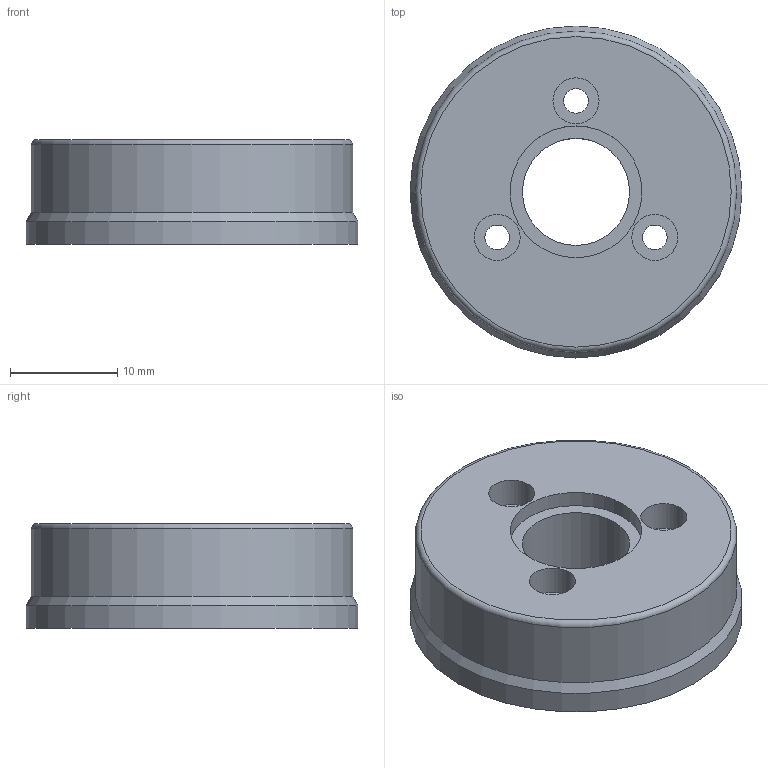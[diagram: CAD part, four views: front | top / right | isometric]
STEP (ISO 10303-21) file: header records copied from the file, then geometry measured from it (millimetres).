
FILE_DESCRIPTION(/* description */ (''),/* implementation_level */ '2;1');
FILE_NAME(/* name */ '32-3_flange_c.stp',/* time_stamp */ '2016-09-07T14:25:35+02:00',/* author */ ('DR. FRITZ FAULHABER GmbH & Co. KG'),/* organization */ ('DR. FRITZ FAULHABER GmbH & Co. KG'),/* preprocessor_version */ 'ST-DEVELOPER v16',/* originating_system */ 'SIEMENS PLM Software NX 10.0',/* authorisation */ '');
FILE_SCHEMA (('AUTOMOTIVE_DESIGN { 1 0 10303 214 3 1 1 1 }'));
Length unit declared in the file: millimetre
Products named in the file (1): F0201636014_B
Bounding box: 31 x 31 x 9.8 mm (x, y, z)
Volume: 6004.7 mm3; surface area: 2783.2 mm2
Topology: 1 solids, 1 shells, 19 faces, 44 edges, 36 vertices
Faces by surface type: cylinder 10, plane 6, cone 2, torus 1
Full cylindrical faces by diameter (mm): 2.3 x3, 4.3 x3, 10 x1, 12.3 x1, 30 x1, 31 x1
Entity records: 531 total; most frequent: DIRECTION 95, CARTESIAN_POINT 72, AXIS2_PLACEMENT_3D 46, FACE_BOUND 44, EDGE_LOOP 44, ORIENTED_EDGE 44, CIRCLE 26, VERTEX_POINT 22
